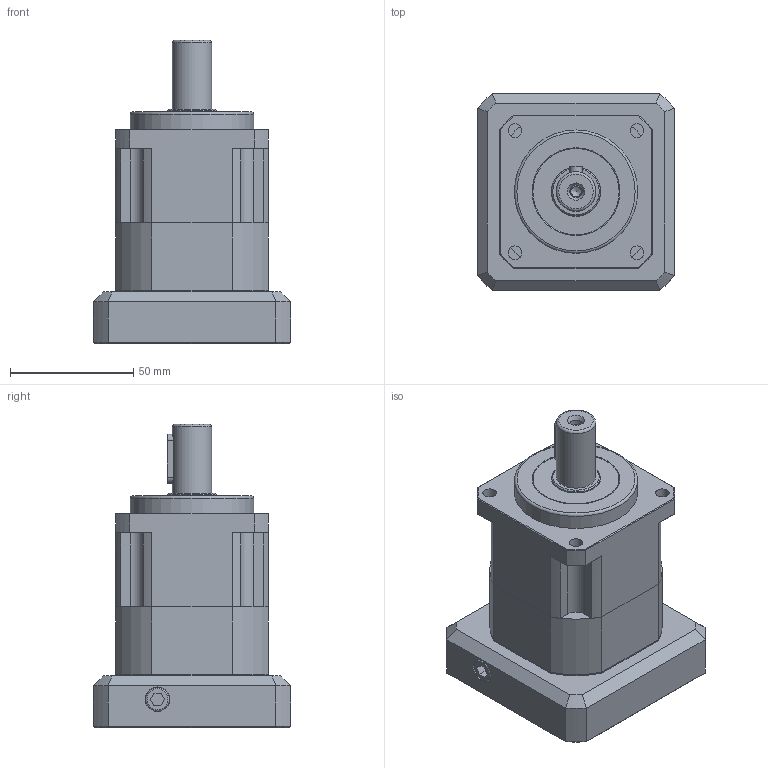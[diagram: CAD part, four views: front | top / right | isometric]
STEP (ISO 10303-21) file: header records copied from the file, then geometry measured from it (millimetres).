
FILE_DESCRIPTION((''),'2;1');
FILE_NAME('C:\Work\감속기 카다로그 도면\ATG Reducer(홈페이지)\KSB\추가수정\KSB-62-1 (S19).stp','2014-06-24T10:35:22',('young'),(''),'Autodesk Inventor 2012','Autodesk Inventor 2012','');
FILE_SCHEMA(('AUTOMOTIVE_DESIGN { 1 0 10303 214 1 1 1 1 }'));
Length unit declared in the file: millimetre
Products named in the file (1): KSB-62-1 (S19)
Bounding box: 80 x 80 x 123 mm (x, y, z)
Volume: 294203 mm3; surface area: 83872.7 mm2
Topology: 18 solids, 18 shells, 484 faces, 1147 edges, 729 vertices
Faces by surface type: plane 271, cylinder 115, cone 74, torus 13, bspline 11
Full cylindrical faces by diameter (mm): 3.3 x4, 4 x1, 4.2 x7, 4.5 x4, 5 x10, 5.5 x9, 7 x1, 8 x4, 8.5 x4, 9.5 x2, 16 x2, 17 x1, 19.2 x1, 19.8 x2, 20 x2, 23.5 x1, 24.8 x1, 26 x1, 35 x4, 44 x1, 50 x3, 70 x1
Entity records: 14279 total; most frequent: CARTESIAN_POINT 3563, DIRECTION 2207, ORIENTED_EDGE 1990, EDGE_CURVE 995, AXIS2_PLACEMENT_3D 830, VERTEX_POINT 696, EDGE_LOOP 673, VECTOR 547
